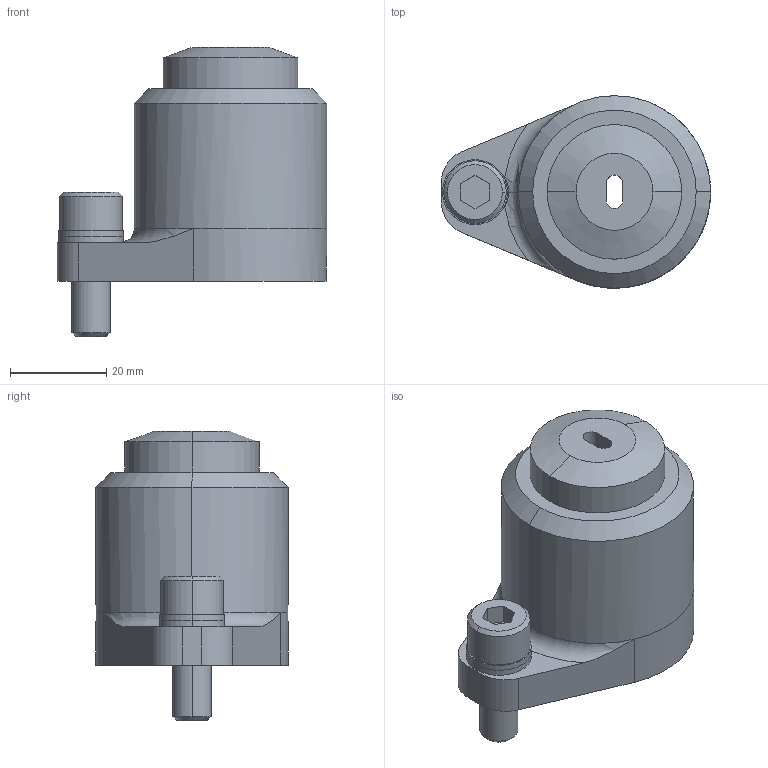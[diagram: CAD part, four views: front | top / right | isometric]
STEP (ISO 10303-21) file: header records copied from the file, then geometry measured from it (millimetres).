
FILE_DESCRIPTION(/* description */ (''),/* implementation_level */ '2;1');
FILE_NAME(/* name */ '3d_spre10-g-p7.00-w3.50-k0_05422_r00.stp',/* time_stamp */ '2011-01-10T14:10:06+09:00',/* author */ ('MISUMI'),/* organization */ (''),/* preprocessor_version */ 'ST-DEVELOPER v11',/* originating_system */ 'UGS - NX 5.0',/* authorisation */ '');
FILE_SCHEMA (('CONFIG_CONTROL_DESIGN'));
Length unit declared in the file: millimetre
Products named in the file (1): 3d_spre10-g-p7.00-w3.50-k0_05422_r00
Bounding box: 56 x 40 x 60.1 mm (x, y, z)
Volume: 52959.7 mm3; surface area: 23706.2 mm2
Topology: 6 solids, 6 shells, 76 faces, 169 edges, 109 vertices
Faces by surface type: cylinder 38, plane 28, cone 8, torus 2
Entity records: 2240 total; most frequent: DIRECTION 406, CARTESIAN_POINT 371, ORIENTED_EDGE 338, EDGE_CURVE 169, AXIS2_PLACEMENT_3D 164, VERTEX_POINT 109, EDGE_LOOP 92, CIRCLE 87
